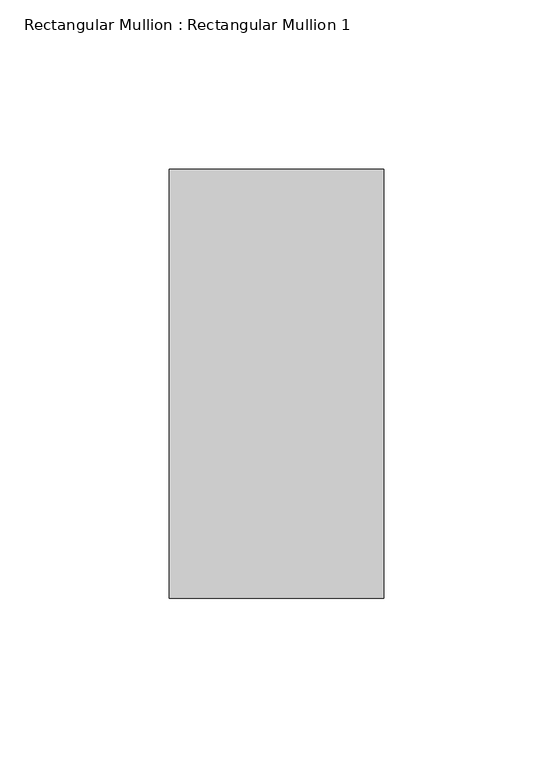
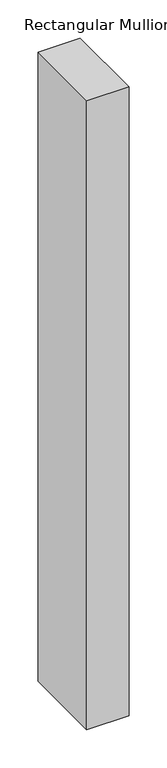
"""IFC4 building model written with IfcOpenShell, lengths in millimetres: member geometry, Rectangular Mullion : Rectangular Mullion 1."""

from ifc_helpers import new_model, si_unit, frame, origin, place, context, project, spatial, polyline, outline, extrude, source, transform, mapped, element, save


def rectangular_mullion_rectangular_mullion_1_29433100(model_context):
    return source(origin(), model_context, "Body", "SweptSolid", [
        extrude(outline(polyline([(0.0, 63.5), (0.0, -63.5), (-63.5, -63.5), (-63.5, 63.5), (0.0, 63.5)])), frame((0.0, 0.0, -1002.392857), z_axis=(0.0, 0.0, 1.0), x_axis=(1.0, 0.0, 0.0)), (0.0, 0.0, 1.0), 1002.392857),
    ])


if __name__ == "__main__":
    model = new_model("IFC4")
    model_context = context("Model", 3, world=origin())
    ifc_project = project(units=[si_unit("LENGTHUNIT", "METRE", prefix="MILLI")], contexts=[model_context])
    site = spatial("IfcSite", under=ifc_project)
    building = spatial("IfcBuilding", under=site)
    placement = place(None, origin())
    rectangular_mullion_rectangular_mullion_1_shape = rectangular_mullion_rectangular_mullion_1_29433100(model_context)
    element("IfcMember", 1, ObjectType="Rectangular Mullion : Rectangular Mullion 1", at=placement, inside=building, context=model_context, shape_type="MappedRepresentation", body=[
        mapped(rectangular_mullion_rectangular_mullion_1_shape, transform((0.0, 0.0, 0.0), x_axis=(1.0, 0.0, 0.0), y_axis=(0.0, 1.0, 0.0), z_axis=(0.0, 0.0, 1.0))),
    ])
    save(model, "model.ifc")
